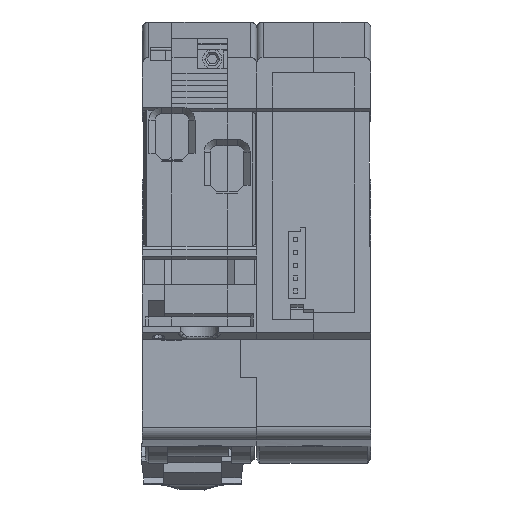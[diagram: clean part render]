
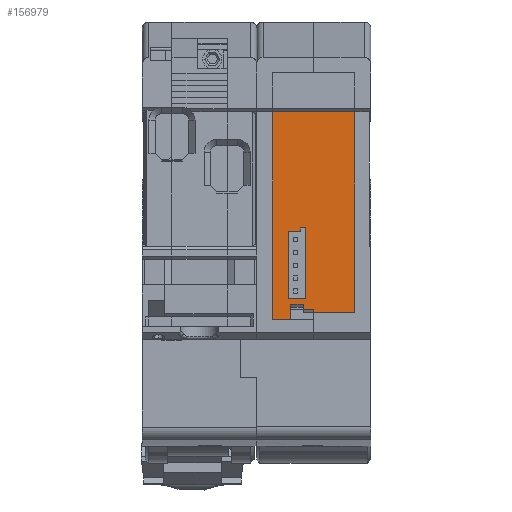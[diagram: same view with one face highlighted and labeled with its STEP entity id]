
A CAD part, front view. The second image highlights one B-rep face of the part: STEP entity #156979.
In plain terms, the highlighted planar face has unit normal (0, -1, 0).
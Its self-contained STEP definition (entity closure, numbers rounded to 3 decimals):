
#154561=DIRECTION('',(-1.,0.,0.));
#154562=VECTOR('',#154561,12.8);
#154563=CARTESIAN_POINT('',(-6.214,7.431,
-21.625));
#154564=LINE('',#154563,#154562);
#154577=DIRECTION('',(0.,0.,1.));
#154578=VECTOR('',#154577,31.3);
#154579=CARTESIAN_POINT('',(-6.214,7.431,
-52.925));
#154580=LINE('',#154579,#154578);
#154845=DIRECTION('',(-1.,0.,0.));
#154846=VECTOR('',#154845,6.4);
#154847=CARTESIAN_POINT('',(-6.214,7.431,
-52.925));
#154848=LINE('',#154847,#154846);
#154849=DIRECTION('',(0.,0.,-1.));
#154850=VECTOR('',#154849,2.4);
#154851=CARTESIAN_POINT('',(-16.214,7.431,
-51.625));
#154852=LINE('',#154851,#154850);
#154853=DIRECTION('',(-1.,0.,0.));
#154854=VECTOR('',#154853,2.8);
#154855=CARTESIAN_POINT('',(-16.214,7.431,
-54.025));
#154856=LINE('',#154855,#154854);
#154857=DIRECTION('',(0.,0.,1.));
#154858=VECTOR('',#154857,32.4);
#154859=CARTESIAN_POINT('',(-19.014,7.431,
-54.025));
#154860=LINE('',#154859,#154858);
#154861=DIRECTION('',(1.,0.,0.));
#154862=VECTOR('',#154861,2.7);
#154863=CARTESIAN_POINT('',(-16.514,7.431,
-50.825));
#154864=LINE('',#154863,#154862);
#154921=DIRECTION('',(0.,0.,-1.));
#154922=VECTOR('',#154921,0.8);
#154923=CARTESIAN_POINT('',(-14.214,7.431,
-51.625));
#154924=LINE('',#154923,#154922);
#155135=DIRECTION('',(1.,0.,0.));
#155136=VECTOR('',#155135,0.8);
#155137=CARTESIAN_POINT('',(-14.614,7.431,
-39.725));
#155138=LINE('',#155137,#155136);
#155139=DIRECTION('',(0.,0.,1.));
#155140=VECTOR('',#155139,0.6);
#155141=CARTESIAN_POINT('',(-14.614,7.431,
-40.325));
#155142=LINE('',#155141,#155140);
#155163=DIRECTION('',(1.,0.,0.));
#155164=VECTOR('',#155163,1.9);
#155165=CARTESIAN_POINT('',(-16.514,7.431,
-40.325));
#155166=LINE('',#155165,#155164);
#155171=DIRECTION('',(0.,0.,1.));
#155172=VECTOR('',#155171,10.5);
#155173=CARTESIAN_POINT('',(-16.514,7.431,
-50.825));
#155174=LINE('',#155173,#155172);
#155227=DIRECTION('',(0.,0.,-1.));
#155228=VECTOR('',#155227,11.1);
#155229=CARTESIAN_POINT('',(-13.814,7.431,
-39.725));
#155230=LINE('',#155229,#155228);
#155845=DIRECTION('',(1.,0.,0.));
#155846=VECTOR('',#155845,2.);
#155847=CARTESIAN_POINT('',(-16.214,7.431,
-51.625));
#155848=LINE('',#155847,#155846);
#155873=DIRECTION('',(1.,0.,0.));
#155874=VECTOR('',#155873,1.6);
#155875=CARTESIAN_POINT('',(-14.214,7.431,
-52.425));
#155876=LINE('',#155875,#155874);
#155893=DIRECTION('',(0.,0.,-1.));
#155894=VECTOR('',#155893,0.5);
#155895=CARTESIAN_POINT('',(-12.614,7.431,
-52.425));
#155896=LINE('',#155895,#155894);
#156027=CARTESIAN_POINT('',(-6.214,7.431,
-21.625));
#156028=VERTEX_POINT('',#156027);
#156029=CARTESIAN_POINT('',(-19.014,7.431,
-21.625));
#156030=VERTEX_POINT('',#156029);
#156129=CARTESIAN_POINT('',(-16.214,7.431,
-54.025));
#156130=VERTEX_POINT('',#156129);
#156131=CARTESIAN_POINT('',(-16.214,7.431,
-51.625));
#156132=VERTEX_POINT('',#156131);
#156137=CARTESIAN_POINT('',(-19.014,7.431,
-54.025));
#156138=VERTEX_POINT('',#156137);
#156139=CARTESIAN_POINT('',(-6.214,7.431,
-52.925));
#156140=VERTEX_POINT('',#156139);
#156141=CARTESIAN_POINT('',(-12.614,7.431,
-52.925));
#156142=VERTEX_POINT('',#156141);
#156143=CARTESIAN_POINT('',(-12.614,7.431,
-52.425));
#156144=VERTEX_POINT('',#156143);
#156145=CARTESIAN_POINT('',(-14.214,7.431,
-52.425));
#156146=VERTEX_POINT('',#156145);
#156147=CARTESIAN_POINT('',(-14.214,7.431,
-51.625));
#156148=VERTEX_POINT('',#156147);
#156149=CARTESIAN_POINT('',(-16.514,7.431,
-50.825));
#156150=CARTESIAN_POINT('',(-13.814,7.431,
-50.825));
#156151=VERTEX_POINT('',#156149);
#156152=VERTEX_POINT('',#156150);
#156153=CARTESIAN_POINT('',(-13.814,7.431,
-39.725));
#156154=VERTEX_POINT('',#156153);
#156155=CARTESIAN_POINT('',(-14.614,7.431,
-39.725));
#156156=VERTEX_POINT('',#156155);
#156157=CARTESIAN_POINT('',(-14.614,7.431,
-40.325));
#156158=VERTEX_POINT('',#156157);
#156159=CARTESIAN_POINT('',(-16.514,7.431,
-40.325));
#156160=VERTEX_POINT('',#156159);
#156941=CARTESIAN_POINT('',(-21.514,7.431,
-21.625));
#156942=DIRECTION('',(0.,-1.,0.));
#156943=DIRECTION('',(0.,0.,-1.));
#156944=AXIS2_PLACEMENT_3D('',#156941,#156942,#156943);
#156945=PLANE('',#156944);
#156946=ORIENTED_EDGE('',*,*,#156420,.F.);
#156947=ORIENTED_EDGE('',*,*,#156446,.F.);
#156949=ORIENTED_EDGE('',*,*,#156948,.T.);
#156951=ORIENTED_EDGE('',*,*,#156950,.F.);
#156953=ORIENTED_EDGE('',*,*,#156952,.F.);
#156955=ORIENTED_EDGE('',*,*,#156954,.F.);
#156957=ORIENTED_EDGE('',*,*,#156956,.F.);
#156959=ORIENTED_EDGE('',*,*,#156958,.T.);
#156961=ORIENTED_EDGE('',*,*,#156960,.T.);
#156962=ORIENTED_EDGE('',*,*,#156932,.T.);
#156963=EDGE_LOOP('',(#156946,#156947,#156949,#156951,#156953,#156955,#156957,
#156959,#156961,#156962));
#156964=FACE_OUTER_BOUND('',#156963,.F.);
#156966=ORIENTED_EDGE('',*,*,#156965,.T.);
#156968=ORIENTED_EDGE('',*,*,#156967,.F.);
#156970=ORIENTED_EDGE('',*,*,#156969,.F.);
#156972=ORIENTED_EDGE('',*,*,#156971,.F.);
#156974=ORIENTED_EDGE('',*,*,#156973,.F.);
#156976=ORIENTED_EDGE('',*,*,#156975,.F.);
#156977=EDGE_LOOP('',(#156966,#156968,#156970,#156972,#156974,#156976));
#156978=FACE_BOUND('',#156977,.F.);
#156979=ADVANCED_FACE('',(#156964,#156978),#156945,.T.);
#156420=EDGE_CURVE('',#156028,#156030,#154564,.T.);
#156446=EDGE_CURVE('',#156140,#156028,#154580,.T.);
#156932=EDGE_CURVE('',#156138,#156030,#154860,.T.);
#156948=EDGE_CURVE('',#156140,#156142,#154848,.T.);
#156950=EDGE_CURVE('',#156144,#156142,#155896,.T.);
#156952=EDGE_CURVE('',#156146,#156144,#155876,.T.);
#156954=EDGE_CURVE('',#156148,#156146,#154924,.T.);
#156956=EDGE_CURVE('',#156132,#156148,#155848,.T.);
#156958=EDGE_CURVE('',#156132,#156130,#154852,.T.);
#156960=EDGE_CURVE('',#156130,#156138,#154856,.T.);
#156965=EDGE_CURVE('',#156151,#156152,#154864,.T.);
#156967=EDGE_CURVE('',#156154,#156152,#155230,.T.);
#156969=EDGE_CURVE('',#156156,#156154,#155138,.T.);
#156971=EDGE_CURVE('',#156158,#156156,#155142,.T.);
#156973=EDGE_CURVE('',#156160,#156158,#155166,.T.);
#156975=EDGE_CURVE('',#156151,#156160,#155174,.T.);
